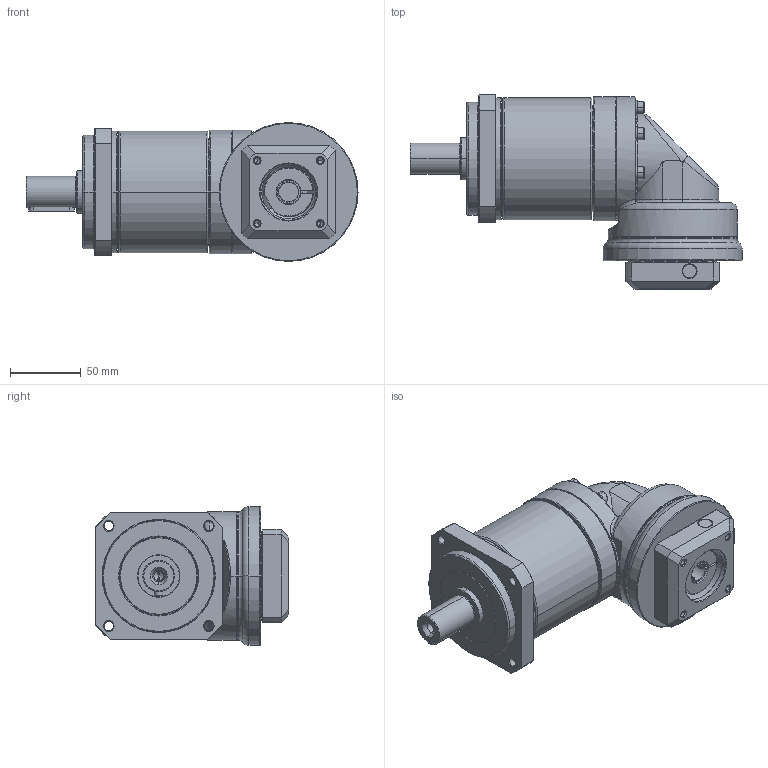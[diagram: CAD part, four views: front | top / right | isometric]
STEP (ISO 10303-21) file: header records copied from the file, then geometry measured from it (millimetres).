
FILE_DESCRIPTION((''),'2;1');
FILE_NAME('PA2R-090_2ST_14-P0411300101_ASM','2016-05-16T',('d01943'),(''),'PRO/ENGINEER BY PARAMETRIC TECHNOLOGY CORPORATION, 2008410','PRO/ENGINEER BY PARAMETRIC TECHNOLOGY CORPORATION, 2008410','');
FILE_SCHEMA(('CONFIG_CONTROL_DESIGN'));
Length unit declared in the file: millimetre
Products named in the file (12): P1327310001; P0251300001; P0350300001; P1349300001; P1017300001; P0713300001; P0503300005; P1350300001; P0411300101; P1702300001; 2111BA05025; PA2R-090_2ST_14-P0411300101_ASM
Assembly tree (16 placements, depth 2):
  PA2R-090_2ST_14-P0411300101_ASM
    P1327310001
    P0251300001
    P0350300001
    P1349300001
    P1017300001
    P0713300001
    P0503300005
    P1350300001
    P0411300101
    P1702300001
    2111BA05025  x6
Bounding box: 234.5 x 137 x 98 mm (x, y, z)
Volume: 754142.8 mm3; surface area: 194411.5 mm2
Topology: 16 solids, 16 shells, 824 faces, 1815 edges, 1050 vertices
Faces by surface type: cylinder 252, cone 238, plane 202, torus 100, bspline 32
Entity records: 23905 total; most frequent: CARTESIAN_POINT 9028, DIRECTION 3301, ORIENTED_EDGE 2878, EDGE_CURVE 1439, AXIS2_PLACEMENT_3D 1389, VERTEX_POINT 850, EDGE_LOOP 753, CIRCLE 734
